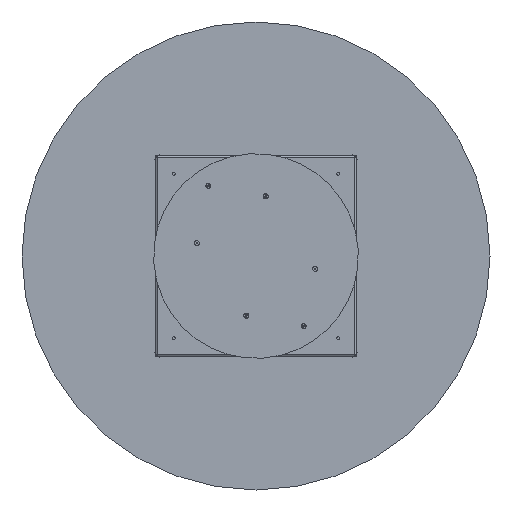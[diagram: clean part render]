
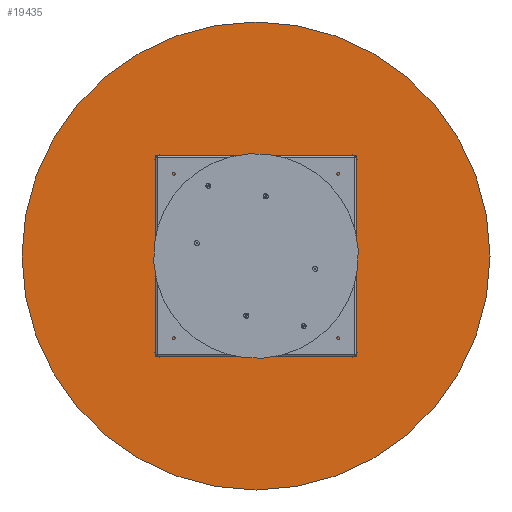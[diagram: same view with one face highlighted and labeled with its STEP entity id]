
A CAD part, front view. The second image highlights one B-rep face of the part: STEP entity #19435.
In plain terms, the highlighted planar face has unit normal (0, -1, 0).
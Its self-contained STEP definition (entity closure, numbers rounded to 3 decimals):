
#771 = DIRECTION ( 'NONE',  ( 0., -1., 0. ) ) ;
#975 = AXIS2_PLACEMENT_3D ( 'NONE', #12747, #19856, #7958 ) ;
#3913 = EDGE_LOOP ( 'NONE', ( #7068, #21511 ) ) ;
#4002 = EDGE_CURVE ( 'NONE', #18622, #7664, #10467, .T. ) ;
#4536 = FACE_OUTER_BOUND ( 'NONE', #3913, .T. ) ;
#7068 = ORIENTED_EDGE ( 'NONE', *, *, #15872, .T. ) ;
#7362 = CARTESIAN_POINT ( 'NONE',  ( 0., 0., 800. ) ) ;
#7406 = DIRECTION ( 'NONE',  ( 0., -1., 0. ) ) ;
#7664 = VERTEX_POINT ( 'NONE', #15874 ) ;
#7958 = DIRECTION ( 'NONE',  ( 0., 0., -1. ) ) ;
#9112 = DIRECTION ( 'NONE',  ( 0., 0., -1. ) ) ;
#10413 = CIRCLE ( 'NONE', #20640, 800. ) ;
#10467 = CIRCLE ( 'NONE', #975, 800. ) ;
#11627 = PLANE ( 'NONE',  #19670 ) ;
#12296 = CARTESIAN_POINT ( 'NONE',  ( 0., 0., 0. ) ) ;
#12747 = CARTESIAN_POINT ( 'NONE',  ( 0., 0., 0. ) ) ;
#15872 = EDGE_CURVE ( 'NONE', #7664, #18622, #10413, .T. ) ;
#15874 = CARTESIAN_POINT ( 'NONE',  ( 0., 0., -800. ) ) ;
#18151 = DIRECTION ( 'NONE',  ( 0., 0., -1. ) ) ;
#18483 = CARTESIAN_POINT ( 'NONE',  ( 0., 0., 0. ) ) ;
#18622 = VERTEX_POINT ( 'NONE', #7362 ) ;
#19435 = ADVANCED_FACE ( 'NONE', ( #4536 ), #11627, .T. ) ;
#19670 = AXIS2_PLACEMENT_3D ( 'NONE', #18483, #771, #18151 ) ;
#19856 = DIRECTION ( 'NONE',  ( 0., -1., 0. ) ) ;
#20640 = AXIS2_PLACEMENT_3D ( 'NONE', #12296, #7406, #9112 ) ;
#21511 = ORIENTED_EDGE ( 'NONE', *, *, #4002, .T. ) ;
